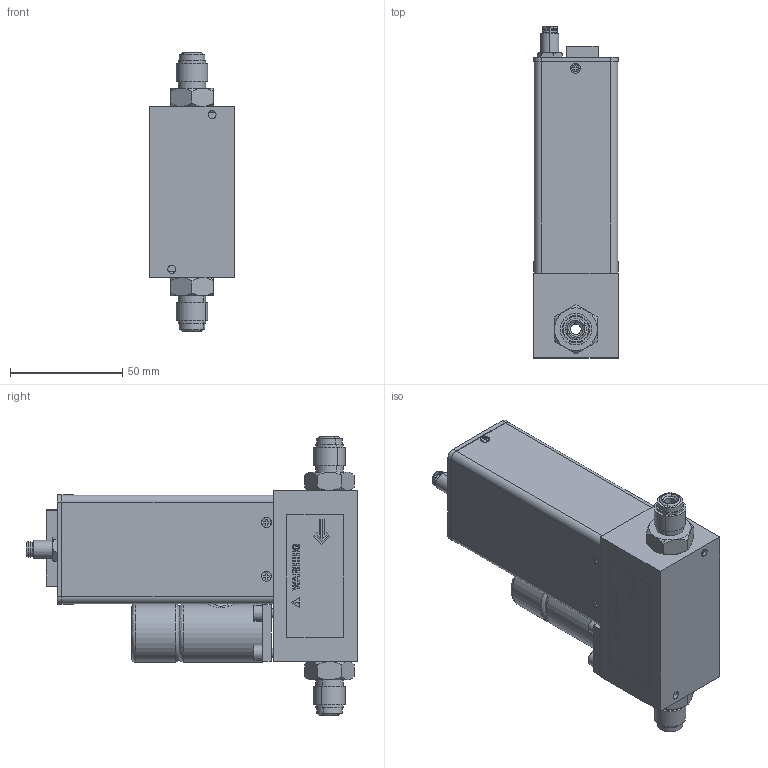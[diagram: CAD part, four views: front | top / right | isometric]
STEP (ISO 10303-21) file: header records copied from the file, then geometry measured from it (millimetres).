
FILE_DESCRIPTION (( 'STEP AP214' ), '1' );
FILE_NAME ('SLA5850-8-E1-5-A-REVB.STEP', '2021-06-30T18:47:14', ( '' ), ( '' ), 'SwSTEP 2.0', 'SolidWorks 2020', '' );
FILE_SCHEMA (( 'AUTOMOTIVE_DESIGN' ));
Length unit declared in the file: inch
Products named in the file (1): SLA5850-8-E1-5-A-REVB
Bounding box: 38.07 x 147.97 x 124.1 mm (x, y, z)
Volume: 72572.1 mm3; surface area: 99316.7 mm2
Topology: 52 solids, 52 shells, 2283 faces, 5987 edges, 3875 vertices
Faces by surface type: plane 1412, cylinder 553, bspline 187, cone 131
Entity records: 105814 total; most frequent: CARTESIAN_POINT 19438, ORIENTED_EDGE 11938, DIRECTION 11192, EDGE_CURVE 5969, LINE 4196, VECTOR 4196, VERTEX_POINT 3875, AXIS2_PLACEMENT_3D 3498
